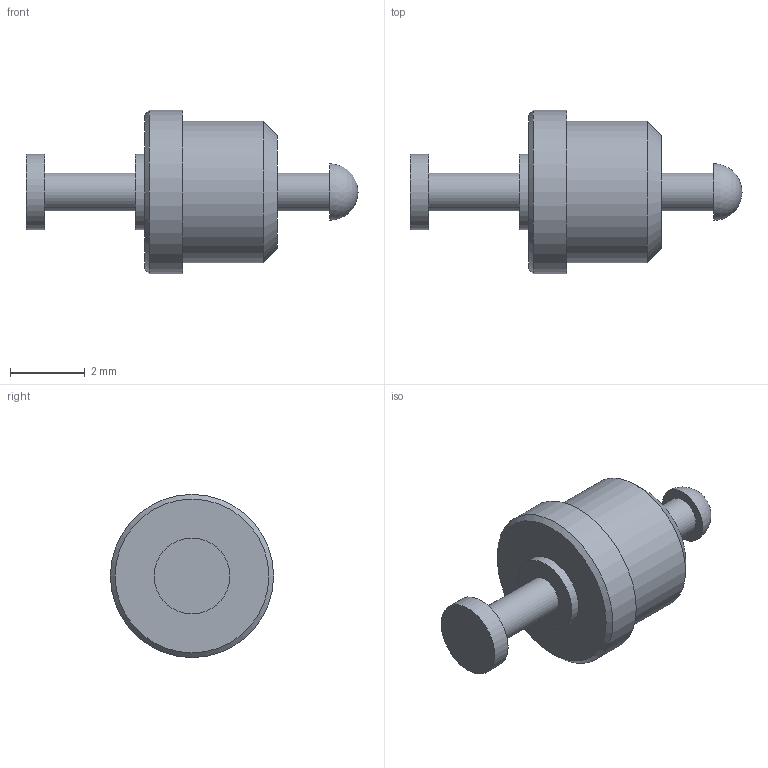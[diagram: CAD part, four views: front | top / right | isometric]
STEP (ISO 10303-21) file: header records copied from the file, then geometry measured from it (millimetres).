
FILE_DESCRIPTION(/* description */ (''),/* implementation_level */ '2;1');
FILE_NAME(/* name */ '\\Snap1\dwgs\Customer 3D Models\571\571-4179-01 Customer model.stp',/* time_stamp */ '2017-01-06T11:41:57+00:00',/* author */ ('paulk'),/* organization */ (''),/* preprocessor_version */ 'ST-DEVELOPER v15.2',/* originating_system */ 'Autodesk Inventor 2014',/* authorisation */ '');
FILE_SCHEMA (('CONFIG_CONTROL_DESIGN'));
Length unit declared in the file: millimetre
Products named in the file (1): 571-4179-01 Customer model
Bounding box: 8.89 x 4.37 x 4.37 mm (x, y, z)
Volume: 49.4 mm3; surface area: 96 mm2
Topology: 1 solids, 1 shells, 16 faces, 27 edges, 18 vertices
Faces by surface type: plane 7, cylinder 6, cone 2, sphere 1
Full cylindrical faces by diameter (mm): 1.016 x2, 2.032 x2, 3.785 x1, 4.369 x1
Entity records: 365 total; most frequent: DIRECTION 64, CARTESIAN_POINT 47, AXIS2_PLACEMENT_3D 32, EDGE_LOOP 30, ORIENTED_EDGE 30, FACE_BOUND 19, STYLED_ITEM 17, ADVANCED_FACE 16
